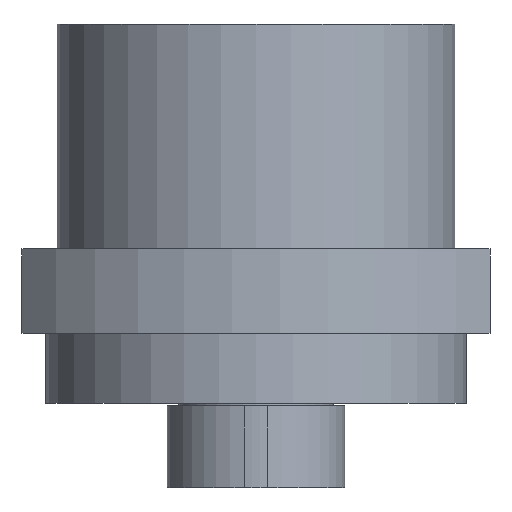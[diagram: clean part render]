
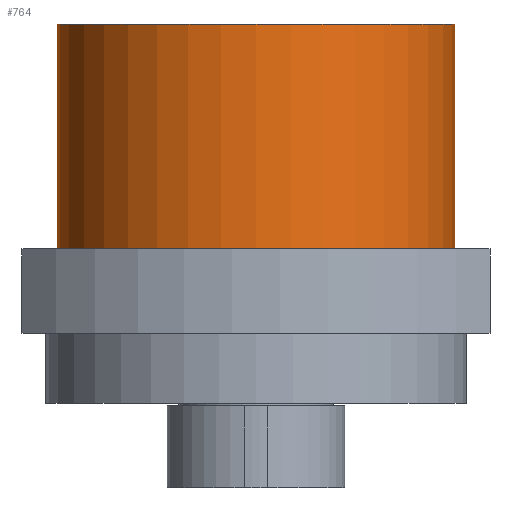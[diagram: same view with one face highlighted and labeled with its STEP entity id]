
A CAD part, front view. The second image highlights one B-rep face of the part: STEP entity #764.
In plain terms, the highlighted cylindrical face has radius 42.5 mm (diameter 85 mm), a full revolution.
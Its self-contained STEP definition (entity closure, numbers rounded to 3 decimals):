
#37=CYLINDRICAL_SURFACE($,#868,42.5);
#141=FACE_BOUND($,#280,.T.);
#199=FACE_OUTER_BOUND($,#279,.T.);
#279=EDGE_LOOP($,(#653));
#280=EDGE_LOOP($,(#654));
#354=CIRCLE($,#869,42.5);
#355=CIRCLE($,#870,42.5);
#422=VERTEX_POINT($,#1313);
#423=VERTEX_POINT($,#1315);
#506=EDGE_CURVE($,#422,#422,#354,.T.);
#507=EDGE_CURVE($,#423,#423,#355,.T.);
#653=ORIENTED_EDGE($,*,*,#506,.F.);
#654=ORIENTED_EDGE($,*,*,#507,.F.);
#764=ADVANCED_FACE($,(#199,#141),#37,.T.);
#868=AXIS2_PLACEMENT_3D($,#1312,#1094,#1095);
#869=AXIS2_PLACEMENT_3D($,#1314,#1096,#1097);
#870=AXIS2_PLACEMENT_3D($,#1316,#1098,#1099);
#1094=DIRECTION('center_axis',(0.,0.,1.));
#1095=DIRECTION('ref_axis',(-1.,0.,0.));
#1096=DIRECTION('center_axis',(0.,0.,1.));
#1097=DIRECTION('ref_axis',(-1.,0.,0.));
#1098=DIRECTION('center_axis',(0.,0.,-1.));
#1099=DIRECTION('ref_axis',(-1.,0.,0.));
#1312=CARTESIAN_POINT('Origin',(0.,0.,19.));
#1313=CARTESIAN_POINT('',(42.5,0.,67.));
#1314=CARTESIAN_POINT('Origin',(0.,0.,67.));
#1315=CARTESIAN_POINT('',(42.5,0.,19.));
#1316=CARTESIAN_POINT('Origin',(0.,0.,19.));
